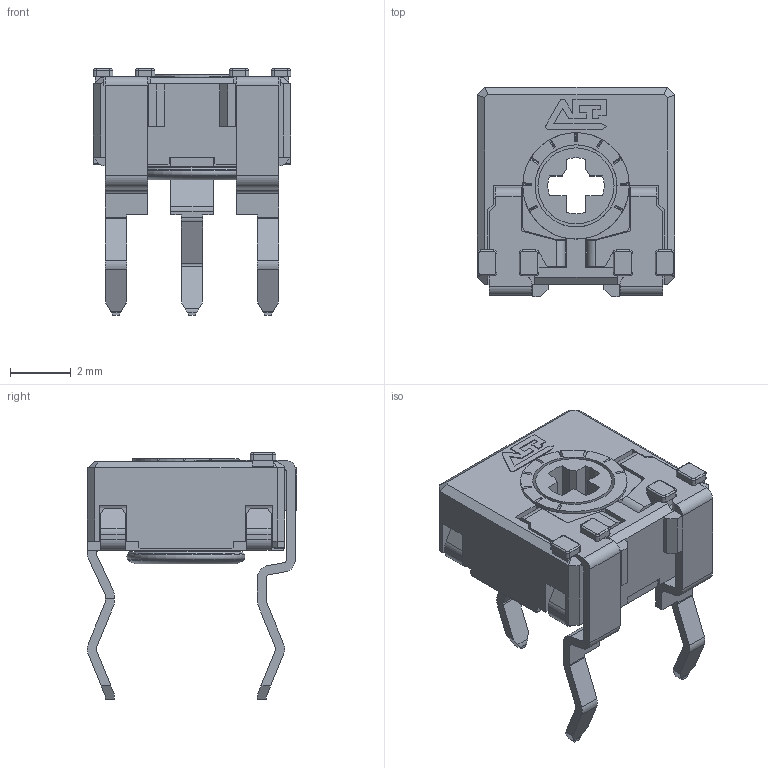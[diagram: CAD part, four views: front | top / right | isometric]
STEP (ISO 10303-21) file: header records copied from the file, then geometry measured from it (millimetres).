
FILE_DESCRIPTION(/* description */ (''),/* implementation_level */ '2;1');
FILE_NAME(/* name */ 'C:\Users\CEM\Desktop\ENVIAR\TRANSICION 3D CATALOGOS\COMCA6XV5 SNP.stp',/* time_stamp */ '2026-03-20T08:27:54+01:00',/* author */ ('CEM'),/* organization */ (''),/* preprocessor_version */ 'ST-DEVELOPER v16.13',/* originating_system */ 'Autodesk Inventor 2018',/* authorisation */ '');
FILE_SCHEMA (('AUTOMOTIVE_DESIGN { 1 0 10303 214 3 1 1 }'));
Length unit declared in the file: millimetre
Products named in the file (1): CARCASA CA6
Bounding box: 6.5 x 6.9 x 8.1 mm (x, y, z)
Volume: 92.8 mm3; surface area: 408.6 mm2
Topology: 1 solids, 1 shells, 580 faces, 1625 edges, 1044 vertices
Faces by surface type: plane 429, cylinder 112, cone 17, bspline 16, torus 6
Full cylindrical faces by diameter (mm): 2.5 x1, 2.7 x1, 2.9 x1, 3.1 x1, 3.5 x1
Entity records: 18667 total; most frequent: CARTESIAN_POINT 3409, ORIENTED_EDGE 3220, DIRECTION 3020, EDGE_CURVE 1607, LINE 1272, VECTOR 1272, VERTEX_POINT 1041, AXIS2_PLACEMENT_3D 874
